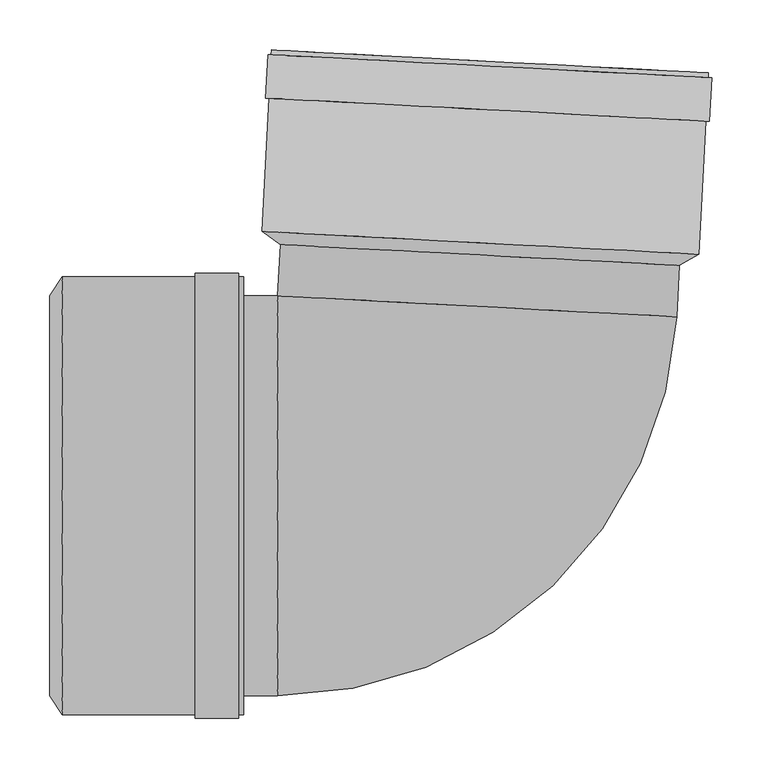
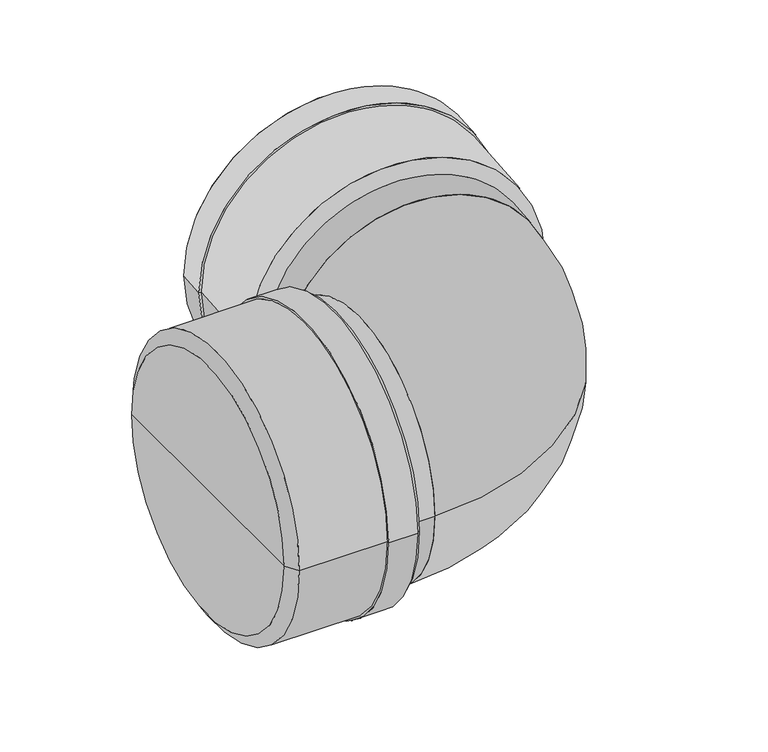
"""IFC4 building model written with IfcOpenShell, lengths in millimetres: pipe fitting geometry, pf_KGB : pf_KGB."""

from ifc_helpers import new_model, si_unit, point, frame, origin, origin_2d, place, context, project, spatial, polyline, circle_curve, ellipse_curve, trimmed, segment, composite_curve, outline, extrude, source, transform, mapped, element, save
from ifc_brep_helpers import plane_surface, cylinder_surface, revolved_surface, advanced_brep


def pipe_fitting_a25a1ad3(model_context):
    return source(origin(), model_context, "Body", "SolidModel", [
        advanced_brep(
        [(212.3493396, 230.4022525, 0.0), (-187.1024743, 251.336635, 0.0), (-205.5377998, 264.5195321, 0.0), (232.0616624, 241.5859161, 0.0), (12.6234326, 240.8694438, 0.0), (241.5763392, 423.1367655, 0.0), (-196.0231229, 446.0703815, 0.0), (-176.9492988, 445.0707648, 0.0), (222.5025151, 424.1363823, 0.0), (-196.2743355, 441.2769598, 0.0), (241.3251266, 418.3433437, 0.0), (-199.6696759, 441.454902, 0.0), (244.720467, 418.1654015, 0.0), (-201.9515236, 397.9146543, 0.0), (242.4386194, 374.6251538, 0.0), (-198.5561832, 397.7367121, 0.0), (239.0432789, 374.803096, 0.0), (212.9878383, 242.5855329, 0.0), (-186.4639756, 263.5199154, 0.0), (13.2619313, 253.0527241, 0.0)],
        [
            (0, 1, circle_curve(frame((12.6234326, 240.8694438, 0.0), z_axis=(0.05233595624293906, 0.9986295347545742, 0.0), x_axis=(-0.9986295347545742, 0.05233595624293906, 0.0)), 200.0)),
            (1, 2),
            (2, 3, circle_curve(frame((13.2619313, 253.0527241, 0.0), z_axis=(-0.05233595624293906, -0.9986295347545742, 0.0), x_axis=(-0.9986295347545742, 0.05233595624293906, 0.0)), 219.1)),
            (3, 0),
            (1, 0, circle_curve(frame((12.6234326, 240.8694438, 0.0), z_axis=(0.05233595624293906, 0.9986295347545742, 0.0), x_axis=(-0.9986295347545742, 0.05233595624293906, 0.0)), 200.0)),
            (3, 2, circle_curve(frame((13.2619313, 253.0527241, 0.0), z_axis=(-0.05233595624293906, -0.9986295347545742, 0.0), x_axis=(-0.9986295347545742, 0.05233595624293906, 0.0)), 219.1)),
            (4, 1),
            (0, 4),
            (5, 6, circle_curve(frame((22.7766082, 434.6035735, 0.0), z_axis=(0.05233595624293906, 0.9986295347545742, 0.0), x_axis=(-0.9986295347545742, 0.05233595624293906, 0.0)), 219.1)),
            (6, 7),
            (7, 8, circle_curve(frame((22.7766082, 434.6035735, 0.0), z_axis=(-0.05233595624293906, -0.9986295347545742, 0.0), x_axis=(-0.9986295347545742, 0.05233595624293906, 0.0)), 200.0)),
            (8, 5),
            (9, 10, circle_curve(frame((22.5253956, 429.8101518, 0.0), z_axis=(0.05233595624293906, 0.9986295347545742, 0.0), x_axis=(-0.9986295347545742, 0.05233595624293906, 0.0)), 219.1)),
            (10, 5),
            (5, 6, circle_curve(frame((22.7766082, 434.6035735, 0.0), z_axis=(-0.05233595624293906, -0.9986295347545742, 0.0), x_axis=(-0.9986295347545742, 0.05233595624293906, 0.0)), 219.1)),
            (6, 9),
            (11, 12, circle_curve(frame((22.5253956, 429.8101518, 0.0), z_axis=(0.05233595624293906, 0.9986295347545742, 0.0), x_axis=(-0.9986295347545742, 0.05233595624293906, 0.0)), 222.5)),
            (12, 10),
            (9, 11),
            (13, 14, circle_curve(frame((20.2435479, 386.269904, 0.0), z_axis=(0.05233595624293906, 0.9986295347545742, 0.0), x_axis=(-0.9986295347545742, 0.05233595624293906, 0.0)), 222.5)),
            (14, 12),
            (11, 13),
            (15, 16, circle_curve(frame((20.2435479, 386.269904, 0.0), z_axis=(0.05233595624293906, 0.9986295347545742, 0.0), x_axis=(-0.9986295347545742, 0.05233595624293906, 0.0)), 219.1)),
            (16, 14),
            (13, 15),
            (8, 7, circle_curve(frame((22.7766082, 434.6035735, 0.0), z_axis=(-0.05233595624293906, -0.9986295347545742, 0.0), x_axis=(-0.9986295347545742, 0.05233595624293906, 0.0)), 200.0)),
            (10, 9, circle_curve(frame((22.5253956, 429.8101518, 0.0), z_axis=(0.05233595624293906, 0.9986295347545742, 0.0), x_axis=(-0.9986295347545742, 0.05233595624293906, 0.0)), 219.1)),
            (12, 11, circle_curve(frame((22.5253956, 429.8101518, 0.0), z_axis=(0.05233595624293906, 0.9986295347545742, 0.0), x_axis=(-0.9986295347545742, 0.05233595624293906, 0.0)), 222.5)),
            (14, 13, circle_curve(frame((20.2435479, 386.269904, 0.0), z_axis=(0.05233595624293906, 0.9986295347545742, 0.0), x_axis=(-0.9986295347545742, 0.05233595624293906, 0.0)), 222.5)),
            (16, 15, circle_curve(frame((20.2435479, 386.269904, 0.0), z_axis=(0.05233595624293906, 0.9986295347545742, 0.0), x_axis=(-0.9986295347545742, 0.05233595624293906, 0.0)), 219.1)),
            (2, 15),
            (16, 3),
            (17, 18, circle_curve(frame((13.2619313, 253.0527241, 0.0), z_axis=(0.05233595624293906, 0.9986295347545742, 0.0), x_axis=(-0.9986295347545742, 0.05233595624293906, 0.0)), 200.0)),
            (18, 19),
            (19, 17),
            (18, 17, circle_curve(frame((13.2619313, 253.0527241, 0.0), z_axis=(0.05233595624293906, 0.9986295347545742, 0.0), x_axis=(-0.9986295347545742, 0.05233595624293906, 0.0)), 200.0)),
            (7, 18),
            (17, 8),
        ],
        [
            revolved_surface(polyline([(-205.5377998, 264.5195321, 0.0), (-187.1024743, 251.336635, 0.0)]), (12.6234326, 240.8694438, 0.0), (-0.05233595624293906, -0.9986295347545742, 0.0)),
            plane_surface(frame((12.6234326, 240.8694438, 0.0), z_axis=(-0.05233595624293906, -0.9986295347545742, 0.0), x_axis=(-0.9986295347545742, 0.05233595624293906, 0.0))),
            plane_surface(frame((22.7766082, 434.6035735, 0.0), z_axis=(0.05233595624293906, 0.9986295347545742, 0.0), x_axis=(-0.9986295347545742, 0.05233595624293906, 0.0))),
            cylinder_surface(frame((12.6234326, 240.8694438, 0.0), z_axis=(-0.05233595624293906, -0.9986295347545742, 0.0), x_axis=(-0.9986295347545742, 0.05233595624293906, 0.0)), 219.1),
            plane_surface(frame((22.5253956, 429.8101518, 0.0), z_axis=(0.05233595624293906, 0.9986295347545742, 0.0), x_axis=(-0.9986295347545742, 0.05233595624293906, 0.0))),
            cylinder_surface(frame((12.6234326, 240.8694438, 0.0), z_axis=(-0.05233595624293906, -0.9986295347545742, 0.0), x_axis=(-0.9986295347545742, 0.05233595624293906, 0.0)), 222.5),
            plane_surface(frame((20.2435479, 386.269904, 0.0), z_axis=(-0.05233595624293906, -0.9986295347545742, 0.0), x_axis=(-0.9986295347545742, 0.05233595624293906, 0.0))),
            plane_surface(frame((13.2619313, 253.0527241, 0.0), z_axis=(0.05233595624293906, 0.9986295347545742, 0.0), x_axis=(-0.9986295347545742, 0.05233595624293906, 0.0))),
            revolved_surface(polyline([(-186.46397568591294, 263.519915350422, 0.0), (-176.949298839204, 445.07076480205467, 0.0)]), (12.6234326, 240.8694438, 0.0), (-0.05233595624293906, -0.9986295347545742, 0.0)),
        ],
        [
            (0, [[1, 2, 3, 4]]),
            (0, [[5, -4, 6, -2]]),
            (1, [[7, -1, 8]]),
            (1, [[-8, -5, -7]]),
            (2, [[9, 10, 11, 12]]),
            (3, [[13, 14, 15, 16]]),
            (4, [[17, 18, -13, 19]]),
            (5, [[20, 21, -17, 22]]),
            (6, [[23, 24, -20, 25]]),
            (2, [[-15, -12, 26, -10]]),
            (3, [[27, -16, -9, -14]]),
            (4, [[28, -19, -27, -18]]),
            (5, [[29, -22, -28, -21]]),
            (6, [[30, -25, -29, -24]]),
            (3, [[-3, 31, -30, 32]]),
            (3, [[-6, -32, -23, -31]]),
            (7, [[33, 34, 35]]),
            (7, [[36, -35, -34]]),
            (8, [[-11, 37, -33, 38]]),
            (8, [[-26, -38, -36, -37]]),
        ],
    ),
        advanced_brep(
        [(-418.0, -200.0, 0.0), (-418.0, 200.0, 0.0), (-405.8, 219.1, 0.0), (-405.8, -219.1, 0.0), (-418.0, 0.0, 0.0), (-224.0, -219.1, 0.0), (-224.0, 219.1, 0.0), (-224.0, 200.0, 0.0), (-224.0, -200.0, 0.0), (-228.8, 219.1, 0.0), (-228.8, -219.1, 0.0), (-228.8, 222.5, 0.0), (-228.8, -222.5, 0.0), (-272.4, 222.5, 0.0), (-272.4, -222.5, 0.0), (-272.4, 219.1, 0.0), (-272.4, -219.1, 0.0), (-405.8, -200.0, 0.0), (-405.8, 200.0, 0.0), (-405.8, 0.0, 0.0)],
        [
            (0, 1, circle_curve(frame((-418.0, 0.0, 0.0), z_axis=(1.0, 0.0, 0.0), x_axis=(0.0, 1.0, 0.0)), 200.0)),
            (1, 2),
            (2, 3, circle_curve(frame((-405.8, 0.0, 0.0), z_axis=(-1.0, 0.0, 0.0), x_axis=(0.0, 1.0, 0.0)), 219.1)),
            (3, 0),
            (1, 0, circle_curve(frame((-418.0, 0.0, 0.0), z_axis=(1.0, 0.0, 0.0), x_axis=(0.0, 1.0, 0.0)), 200.0)),
            (3, 2, circle_curve(frame((-405.8, 0.0, 0.0), z_axis=(-1.0, 0.0, 0.0), x_axis=(0.0, 1.0, 0.0)), 219.1)),
            (4, 1),
            (0, 4),
            (5, 6, circle_curve(frame((-224.0, 0.0, 0.0), z_axis=(1.0, 0.0, 0.0), x_axis=(0.0, 1.0, 0.0)), 219.1)),
            (6, 7),
            (7, 8, circle_curve(frame((-224.0, 0.0, 0.0), z_axis=(-1.0, 0.0, 0.0), x_axis=(0.0, 1.0, 0.0)), 200.0)),
            (8, 5),
            (9, 10, circle_curve(frame((-228.8, 0.0, 0.0), z_axis=(1.0, 0.0, 0.0), x_axis=(0.0, 1.0, 0.0)), 219.1)),
            (10, 5),
            (5, 6, circle_curve(frame((-224.0, 0.0, 0.0), z_axis=(-1.0, 0.0, 0.0), x_axis=(0.0, 1.0, 0.0)), 219.1)),
            (6, 9),
            (11, 12, circle_curve(frame((-228.8, 0.0, 0.0), z_axis=(1.0, 0.0, 0.0), x_axis=(0.0, 1.0, 0.0)), 222.5)),
            (12, 10),
            (9, 11),
            (13, 14, circle_curve(frame((-272.4, 0.0, 0.0), z_axis=(1.0, 0.0, 0.0), x_axis=(0.0, 1.0, 0.0)), 222.5)),
            (14, 12),
            (11, 13),
            (15, 16, circle_curve(frame((-272.4, 0.0, 0.0), z_axis=(1.0, 0.0, 0.0), x_axis=(0.0, 1.0, 0.0)), 219.1)),
            (16, 14),
            (13, 15),
            (8, 7, circle_curve(frame((-224.0, 0.0, 0.0), z_axis=(-1.0, 0.0, 0.0), x_axis=(0.0, 1.0, 0.0)), 200.0)),
            (10, 9, circle_curve(frame((-228.8, 0.0, 0.0), z_axis=(1.0, 0.0, 0.0), x_axis=(0.0, 1.0, 0.0)), 219.1)),
            (12, 11, circle_curve(frame((-228.8, 0.0, 0.0), z_axis=(1.0, 0.0, 0.0), x_axis=(0.0, 1.0, 0.0)), 222.5)),
            (14, 13, circle_curve(frame((-272.4, 0.0, 0.0), z_axis=(1.0, 0.0, 0.0), x_axis=(0.0, 1.0, 0.0)), 222.5)),
            (16, 15, circle_curve(frame((-272.4, 0.0, 0.0), z_axis=(1.0, 0.0, 0.0), x_axis=(0.0, 1.0, 0.0)), 219.1)),
            (2, 15),
            (16, 3),
            (17, 18, circle_curve(frame((-405.8, 0.0, 0.0), z_axis=(1.0, 0.0, 0.0), x_axis=(0.0, 1.0, 0.0)), 200.0)),
            (18, 19),
            (19, 17),
            (18, 17, circle_curve(frame((-405.8, 0.0, 0.0), z_axis=(1.0, 0.0, 0.0), x_axis=(0.0, 1.0, 0.0)), 200.0)),
            (7, 18),
            (17, 8),
        ],
        [
            revolved_surface(polyline([(-405.8, 219.1, 0.0), (-418.0, 200.0, 0.0)]), (-418.0, 0.0, 0.0), (-1.0, 0.0, 0.0)),
            plane_surface(frame((-418.0, 0.0, 0.0), z_axis=(-1.0, 0.0, 0.0), x_axis=(0.0, 1.0, 0.0))),
            plane_surface(frame((-224.0, 0.0, 0.0), z_axis=(1.0, 0.0, 0.0), x_axis=(0.0, 1.0, 0.0))),
            cylinder_surface(frame((-418.0, 0.0, 0.0), z_axis=(-1.0, 0.0, 0.0), x_axis=(0.0, 1.0, 0.0)), 219.1),
            plane_surface(frame((-228.8, 0.0, 0.0), z_axis=(1.0, 0.0, 0.0), x_axis=(0.0, 1.0, 0.0))),
            cylinder_surface(frame((-418.0, 0.0, 0.0), z_axis=(-1.0, 0.0, 0.0), x_axis=(0.0, 1.0, 0.0)), 222.5),
            plane_surface(frame((-272.4, 0.0, 0.0), z_axis=(-1.0, 0.0, 0.0), x_axis=(0.0, 1.0, 0.0))),
            plane_surface(frame((-405.8, 0.0, 0.0), z_axis=(1.0, 0.0, 0.0), x_axis=(0.0, 1.0, 0.0))),
            revolved_surface(polyline([(-405.8, 200.0, 0.0), (-224.0, 200.0, 0.0)]), (-418.0, 0.0, 0.0), (-1.0, 0.0, 0.0)),
        ],
        [
            (0, [[1, 2, 3, 4]]),
            (0, [[5, -4, 6, -2]]),
            (1, [[7, -1, 8]]),
            (1, [[-8, -5, -7]]),
            (2, [[9, 10, 11, 12]]),
            (3, [[13, 14, 15, 16]]),
            (4, [[17, 18, -13, 19]]),
            (5, [[20, 21, -17, 22]]),
            (6, [[23, 24, -20, 25]]),
            (2, [[-15, -12, 26, -10]]),
            (3, [[27, -16, -9, -14]]),
            (4, [[28, -19, -27, -18]]),
            (5, [[29, -22, -28, -21]]),
            (6, [[30, -25, -29, -24]]),
            (3, [[-3, 31, -30, 32]]),
            (3, [[-6, -32, -23, -31]]),
            (7, [[33, 34, 35]]),
            (7, [[36, -35, -34]]),
            (8, [[-11, 37, -33, 38]]),
            (8, [[-26, -38, -36, -37]]),
        ],
    ),
        extrude(outline(composite_curve([segment(trimmed(circle_curve(origin_2d(), 200.0), [point((0.0, -199.9999999))], [point((0.0, 200.0000001))], False, "CARTESIAN"), True, "CONTINUOUS"), segment(trimmed(circle_curve(origin_2d(), 200.0), [point((0.0, 200.0000001))], [point((0.0, -199.9999999))], False, "CARTESIAN"), True, "CONTINUOUS")], self_intersect=False)), frame((9.9329936, 189.5328088, 0.0), z_axis=(0.052335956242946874, 0.9986295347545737, 0.0), x_axis=(0.0, 0.0, 1.0)), (0.0, 0.0, 1.0), 51.4070867),
        extrude(outline(composite_curve([segment(trimmed(circle_curve(origin_2d(), 200.0), [point((-200.0, 0.0))], [point((200.0, 0.0))], False, "CARTESIAN"), True, "CONTINUOUS"), segment(trimmed(circle_curve(origin_2d(), 200.0), [point((200.0, 0.0))], [point((-200.0, 0.0))], False, "CARTESIAN"), True, "CONTINUOUS")], self_intersect=False)), frame((-405.8, 0.0, 0.0), z_axis=(1.0, 0.0, 0.0), x_axis=(0.0, 1.0, 0.0)), (0.0, 0.0, 1.0), 216.0070867),
        advanced_brep(
        [(-189.7929133, -200.0, 0.0), (-189.7929133, 200.0, 0.0), (209.6589006, 179.0656175, 0.0)],
        [
            (0, 1, circle_curve(frame((-189.7929133, 0.0, 0.0), z_axis=(-1.0, 0.0, 0.0), x_axis=(0.0, 1.0, 0.0)), 200.0)),
            (1, 0, circle_curve(frame((-189.7929133, 0.0, 0.0), z_axis=(-1.0, 0.0, 0.0), x_axis=(0.0, 1.0, 0.0)), 200.0)),
            (2, 1, circle_curve(frame((9.9329936, 189.5328088, 0.0), z_axis=(0.05233595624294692, 0.9986295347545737, 0.0), x_axis=(-0.9986295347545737, 0.05233595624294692, 0.0)), 200.0)),
            (1, 2, circle_curve(frame((9.9329936, 189.5328088, 0.0), z_axis=(0.05233595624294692, 0.9986295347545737, 0.0), x_axis=(-0.9986295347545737, 0.05233595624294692, 0.0)), 200.0)),
            (2, 0, circle_curve(frame((-189.7929133, 200.0, 0.0), z_axis=(0.0, 0.0, -1.0), x_axis=(0.0, -1.0, 0.0)), 400.0)),
        ],
        [
            plane_surface(frame((-189.7929133, 200.0, -14.8), z_axis=(-1.0, 0.0, 0.0), x_axis=(0.0, -1.0, 0.0))),
            plane_surface(frame((-189.7929133, 200.0, -14.8), z_axis=(0.052335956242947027, 0.9986295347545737, 0.0), x_axis=(0.9986295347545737, -0.052335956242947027, 0.0))),
            revolved_surface(trimmed(ellipse_curve(frame((-189.7929133, 0.0, 0.0), z_axis=(1.0, 0.0, 0.0), x_axis=(0.0, 1.0, 0.0)), 200.0, 200.0), [point((-189.7929133, -200.0, 0.0))], [point((-189.7929133, 200.0, 0.0))], True, "CARTESIAN"), (-189.7929133, 200.0, -14.8), (0.0, 0.0, -1.0)),
            revolved_surface(trimmed(ellipse_curve(frame((-189.7929133, 0.0, 0.0), z_axis=(1.0, 0.0, 0.0), x_axis=(0.0, 1.0, 0.0)), 200.0, 200.0), [point((-189.7929133, 200.0, 0.0))], [point((-189.7929133, -200.0, 0.0))], True, "CARTESIAN"), (-189.7929133, 200.0, -14.8), (0.0, 0.0, -1.0)),
        ],
        [
            (0, [[1, 2]]),
            (1, [[3, 4]]),
            (2, [[5, -2, -3]]),
            (3, [[-1, -5, -4]]),
        ],
    ),
    ])


if __name__ == "__main__":
    model = new_model("IFC4")
    model_context = context("Model", 3, world=origin())
    ifc_project = project(units=[si_unit("LENGTHUNIT", "METRE", prefix="MILLI")], contexts=[model_context])
    site = spatial("IfcSite", under=ifc_project)
    building = spatial("IfcBuilding", under=site)
    placement = place(None, origin())
    pipe_fitting_shape = pipe_fitting_a25a1ad3(model_context)
    element("IfcPipeFitting", 1, ObjectType="pf_KGB : pf_KGB", at=placement, inside=building, context=model_context, shape_type="MappedRepresentation", body=[
        mapped(pipe_fitting_shape, transform((0.0, 0.0, 0.0), x_axis=(1.0, 0.0, 0.0), y_axis=(0.0, 1.0, 0.0), z_axis=(0.0, 0.0, 1.0))),
    ])
    save(model, "model.ifc")
